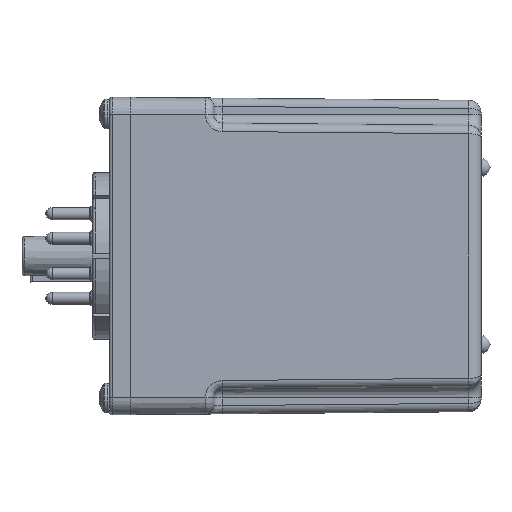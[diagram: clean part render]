
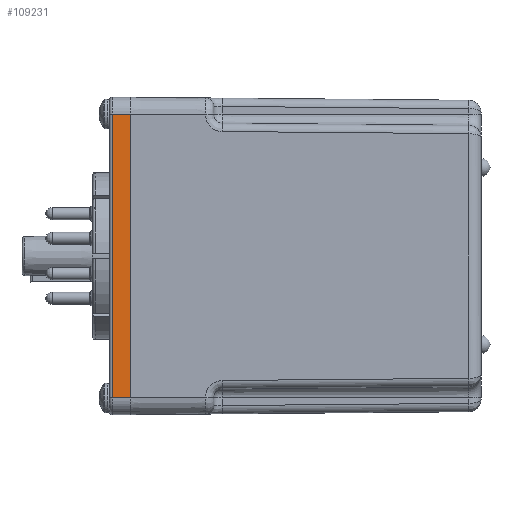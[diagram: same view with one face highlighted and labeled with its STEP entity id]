
A CAD part, left-side view. The second image highlights one B-rep face of the part: STEP entity #109231.
In plain terms, the highlighted planar face has unit normal (-1, 0, 0).
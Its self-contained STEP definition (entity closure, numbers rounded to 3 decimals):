
#89093 = PLANE('',#89094);
#89094 = AXIS2_PLACEMENT_3D('',#89095,#89096,#89097);
#89095 = CARTESIAN_POINT('',(-22.225,127.864,-30.163));
#89096 = DIRECTION('',(0.,1.,0.));
#89097 = DIRECTION('',(1.,0.,-0.));
#96016 = VERTEX_POINT('',#96017);
#96017 = CARTESIAN_POINT('',(-22.225,127.864,26.988));
#96036 = CYLINDRICAL_SURFACE('',#96037,3.175);
#96037 = AXIS2_PLACEMENT_3D('',#96038,#96039,#96040);
#96038 = CARTESIAN_POINT('',(-19.05,127.864,26.988));
#96039 = DIRECTION('',(0.,1.,0.));
#96040 = DIRECTION('',(0.,0.,-1.));
#96048 = EDGE_CURVE('',#96049,#96016,#96051,.T.);
#96049 = VERTEX_POINT('',#96050);
#96050 = CARTESIAN_POINT('',(-22.225,127.864,-26.988));
#96051 = SURFACE_CURVE('',#96052,(#96056,#96063),.PCURVE_S1.);
#96052 = LINE('',#96053,#96054);
#96053 = CARTESIAN_POINT('',(-22.225,127.864,-30.163));
#96054 = VECTOR('',#96055,1.);
#96055 = DIRECTION('',(0.,-0.,1.));
#96056 = PCURVE('',#89093,#96057);
#96057 = DEFINITIONAL_REPRESENTATION('',(#96058),#96062);
#96058 = LINE('',#96059,#96060);
#96059 = CARTESIAN_POINT('',(0.,0.));
#96060 = VECTOR('',#96061,1.);
#96061 = DIRECTION('',(0.,-1.));
#96062 = ( GEOMETRIC_REPRESENTATION_CONTEXT(2) 
PARAMETRIC_REPRESENTATION_CONTEXT() REPRESENTATION_CONTEXT('2D SPACE',''
  ) );
#96063 = PCURVE('',#96064,#96069);
#96064 = PLANE('',#96065);
#96065 = AXIS2_PLACEMENT_3D('',#96066,#96067,#96068);
#96066 = CARTESIAN_POINT('',(-22.225,127.864,-30.163));
#96067 = DIRECTION('',(1.,0.,0.));
#96068 = DIRECTION('',(0.,0.,-1.));
#96069 = DEFINITIONAL_REPRESENTATION('',(#96070),#96074);
#96070 = LINE('',#96071,#96072);
#96071 = CARTESIAN_POINT('',(0.,0.));
#96072 = VECTOR('',#96073,1.);
#96073 = DIRECTION('',(-1.,0.));
#96074 = ( GEOMETRIC_REPRESENTATION_CONTEXT(2) 
PARAMETRIC_REPRESENTATION_CONTEXT() REPRESENTATION_CONTEXT('2D SPACE',''
  ) );
#96097 = CYLINDRICAL_SURFACE('',#96098,3.175);
#96098 = AXIS2_PLACEMENT_3D('',#96099,#96100,#96101);
#96099 = CARTESIAN_POINT('',(-19.05,131.826,-26.988));
#96100 = DIRECTION('',(0.,-1.,0.));
#96101 = DIRECTION('',(0.,0.,1.));
#104310 = CYLINDRICAL_SURFACE('',#104311,0.508);
#104311 = AXIS2_PLACEMENT_3D('',#104312,#104313,#104314);
#104312 = CARTESIAN_POINT('',(-21.717,131.318,-30.163));
#104313 = DIRECTION('',(0.,0.,1.));
#104314 = DIRECTION('',(1.,0.,0.));
#109231 = ADVANCED_FACE('',(#109232),#96064,.F.);
#109232 = FACE_BOUND('',#109233,.T.);
#109233 = EDGE_LOOP('',(#109234,#109257,#109280,#109301));
#109234 = ORIENTED_EDGE('',*,*,#109235,.T.);
#109235 = EDGE_CURVE('',#96016,#109236,#109238,.T.);
#109236 = VERTEX_POINT('',#109237);
#109237 = CARTESIAN_POINT('',(-22.225,131.318,26.988));
#109238 = SURFACE_CURVE('',#109239,(#109243,#109250),.PCURVE_S1.);
#109239 = LINE('',#109240,#109241);
#109240 = CARTESIAN_POINT('',(-22.225,127.864,26.988));
#109241 = VECTOR('',#109242,1.);
#109242 = DIRECTION('',(0.,1.,0.));
#109243 = PCURVE('',#96064,#109244);
#109244 = DEFINITIONAL_REPRESENTATION('',(#109245),#109249);
#109245 = LINE('',#109246,#109247);
#109246 = CARTESIAN_POINT('',(-57.15,0.));
#109247 = VECTOR('',#109248,1.);
#109248 = DIRECTION('',(0.,1.));
#109249 = ( GEOMETRIC_REPRESENTATION_CONTEXT(2) 
PARAMETRIC_REPRESENTATION_CONTEXT() REPRESENTATION_CONTEXT('2D SPACE',''
  ) );
#109250 = PCURVE('',#96036,#109251);
#109251 = DEFINITIONAL_REPRESENTATION('',(#109252),#109256);
#109252 = LINE('',#109253,#109254);
#109253 = CARTESIAN_POINT('',(1.571,0.));
#109254 = VECTOR('',#109255,1.);
#109255 = DIRECTION('',(0.,1.));
#109256 = ( GEOMETRIC_REPRESENTATION_CONTEXT(2) 
PARAMETRIC_REPRESENTATION_CONTEXT() REPRESENTATION_CONTEXT('2D SPACE',''
  ) );
#109257 = ORIENTED_EDGE('',*,*,#109258,.T.);
#109258 = EDGE_CURVE('',#109236,#109259,#109261,.T.);
#109259 = VERTEX_POINT('',#109260);
#109260 = CARTESIAN_POINT('',(-22.225,131.318,-26.988));
#109261 = SURFACE_CURVE('',#109262,(#109266,#109273),.PCURVE_S1.);
#109262 = LINE('',#109263,#109264);
#109263 = CARTESIAN_POINT('',(-22.225,131.318,-30.163));
#109264 = VECTOR('',#109265,1.);
#109265 = DIRECTION('',(0.,0.,-1.));
#109266 = PCURVE('',#96064,#109267);
#109267 = DEFINITIONAL_REPRESENTATION('',(#109268),#109272);
#109268 = LINE('',#109269,#109270);
#109269 = CARTESIAN_POINT('',(0.,3.454));
#109270 = VECTOR('',#109271,1.);
#109271 = DIRECTION('',(1.,0.));
#109272 = ( GEOMETRIC_REPRESENTATION_CONTEXT(2) 
PARAMETRIC_REPRESENTATION_CONTEXT() REPRESENTATION_CONTEXT('2D SPACE',''
  ) );
#109273 = PCURVE('',#104310,#109274);
#109274 = DEFINITIONAL_REPRESENTATION('',(#109275),#109279);
#109275 = LINE('',#109276,#109277);
#109276 = CARTESIAN_POINT('',(3.142,0.));
#109277 = VECTOR('',#109278,1.);
#109278 = DIRECTION('',(0.,-1.));
#109279 = ( GEOMETRIC_REPRESENTATION_CONTEXT(2) 
PARAMETRIC_REPRESENTATION_CONTEXT() REPRESENTATION_CONTEXT('2D SPACE',''
  ) );
#109280 = ORIENTED_EDGE('',*,*,#109281,.T.);
#109281 = EDGE_CURVE('',#109259,#96049,#109282,.T.);
#109282 = SURFACE_CURVE('',#109283,(#109287,#109294),.PCURVE_S1.);
#109283 = LINE('',#109284,#109285);
#109284 = CARTESIAN_POINT('',(-22.225,127.864,-26.988));
#109285 = VECTOR('',#109286,1.);
#109286 = DIRECTION('',(0.,-1.,0.));
#109287 = PCURVE('',#96064,#109288);
#109288 = DEFINITIONAL_REPRESENTATION('',(#109289),#109293);
#109289 = LINE('',#109290,#109291);
#109290 = CARTESIAN_POINT('',(-3.175,0.));
#109291 = VECTOR('',#109292,1.);
#109292 = DIRECTION('',(0.,-1.));
#109293 = ( GEOMETRIC_REPRESENTATION_CONTEXT(2) 
PARAMETRIC_REPRESENTATION_CONTEXT() REPRESENTATION_CONTEXT('2D SPACE',''
  ) );
#109294 = PCURVE('',#96097,#109295);
#109295 = DEFINITIONAL_REPRESENTATION('',(#109296),#109300);
#109296 = LINE('',#109297,#109298);
#109297 = CARTESIAN_POINT('',(1.571,3.962));
#109298 = VECTOR('',#109299,1.);
#109299 = DIRECTION('',(0.,1.));
#109300 = ( GEOMETRIC_REPRESENTATION_CONTEXT(2) 
PARAMETRIC_REPRESENTATION_CONTEXT() REPRESENTATION_CONTEXT('2D SPACE',''
  ) );
#109301 = ORIENTED_EDGE('',*,*,#96048,.T.);
